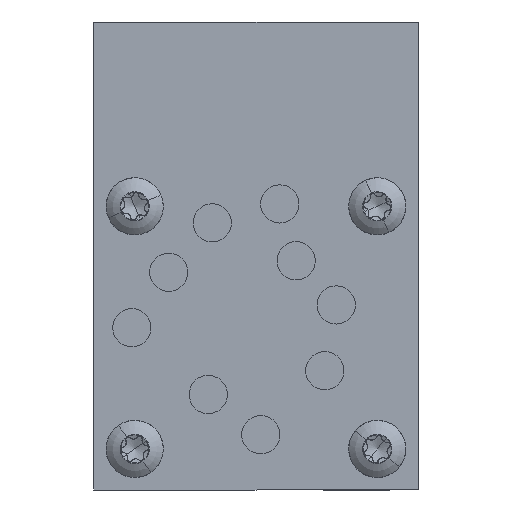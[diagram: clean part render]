
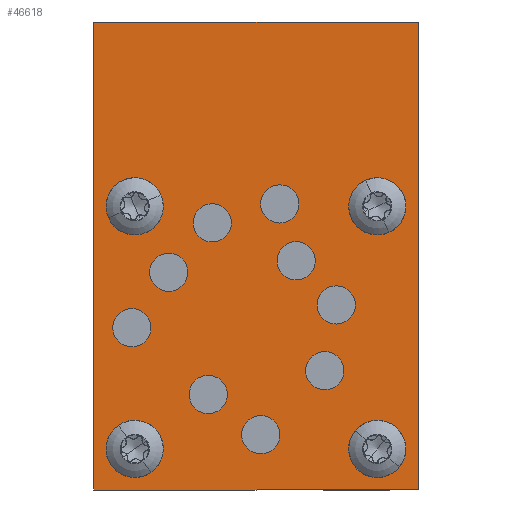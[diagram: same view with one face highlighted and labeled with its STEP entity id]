
A CAD part, front view. The second image highlights one B-rep face of the part: STEP entity #46618.
In plain terms, the highlighted planar face has unit normal (0, -1, 0).
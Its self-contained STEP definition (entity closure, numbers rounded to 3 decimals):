
#57 = CARTESIAN_POINT ( 'NONE',  ( -7.25, -4.809, 6.35 ) ) ;
#330 = CARTESIAN_POINT ( 'NONE',  ( 6.35, -4.809, -6.35 ) ) ;
#688 = VERTEX_POINT ( 'NONE', #57 ) ;
#772 = PLANE ( 'NONE',  #44160 ) ;
#850 = ORIENTED_EDGE ( 'NONE', *, *, #74479, .T. ) ;
#1017 = CARTESIAN_POINT ( 'NONE',  ( -8.5, -4.809, -8.5 ) ) ;
#2002 = VERTEX_POINT ( 'NONE', #44942 ) ;
#2562 = CARTESIAN_POINT ( 'NONE',  ( -7.25, -4.809, -6.35 ) ) ;
#2888 = AXIS2_PLACEMENT_3D ( 'NONE', #68080, #74095, #51162 ) ;
#3318 = VECTOR ( 'NONE', #51398, 1000. ) ;
#3417 = ORIENTED_EDGE ( 'NONE', *, *, #67485, .T. ) ;
#5815 = EDGE_CURVE ( 'NONE', #45388, #74405, #64828, .T. ) ;
#6042 = FACE_BOUND ( 'NONE', #34534, .T. ) ;
#6562 = DIRECTION ( 'NONE',  ( -1., 0., 0. ) ) ;
#8309 = AXIS2_PLACEMENT_3D ( 'NONE', #48574, #14325, #48217 ) ;
#9166 = DIRECTION ( 'NONE',  ( 0., 1., 0. ) ) ;
#9452 = ORIENTED_EDGE ( 'NONE', *, *, #33789, .T. ) ;
#9800 = VERTEX_POINT ( 'NONE', #26542 ) ;
#10145 = VECTOR ( 'NONE', #16329, 1000. ) ;
#11543 = LINE ( 'NONE', #34134, #29314 ) ;
#12077 = FACE_OUTER_BOUND ( 'NONE', #22531, .T. ) ;
#12630 = AXIS2_PLACEMENT_3D ( 'NONE', #71267, #9166, #68123 ) ;
#13080 = AXIS2_PLACEMENT_3D ( 'NONE', #330, #42085, #57544 ) ;
#13491 = DIRECTION ( 'NONE',  ( 0., 1., 0. ) ) ;
#14325 = DIRECTION ( 'NONE',  ( 0., 1., 0. ) ) ;
#14442 = EDGE_CURVE ( 'NONE', #15120, #2002, #70233, .T. ) ;
#14686 = DIRECTION ( 'NONE',  ( 1., 0., 0. ) ) ;
#15120 = VERTEX_POINT ( 'NONE', #2562 ) ;
#15675 = ORIENTED_EDGE ( 'NONE', *, *, #35165, .T. ) ;
#16329 = DIRECTION ( 'NONE',  ( 0., 0., -1. ) ) ;
#16632 = CARTESIAN_POINT ( 'NONE',  ( 5.45, -4.809, 6.35 ) ) ;
#16716 = EDGE_LOOP ( 'NONE', ( #64727, #27274 ) ) ;
#17494 = CARTESIAN_POINT ( 'NONE',  ( 8.5, -4.809, 16. ) ) ;
#19382 = CARTESIAN_POINT ( 'NONE',  ( -5.45, -4.809, 6.35 ) ) ;
#20568 = EDGE_LOOP ( 'NONE', ( #68234, #850 ) ) ;
#20969 = DIRECTION ( 'NONE',  ( 1., 0., 0. ) ) ;
#21341 = CARTESIAN_POINT ( 'NONE',  ( 6.35, -4.809, 6.35 ) ) ;
#21583 = VERTEX_POINT ( 'NONE', #19382 ) ;
#21719 = DIRECTION ( 'NONE',  ( 1., 0., 0. ) ) ;
#21967 = LINE ( 'NONE', #67856, #10145 ) ;
#22094 = DIRECTION ( 'NONE',  ( 1., 0., 0. ) ) ;
#22218 = DIRECTION ( 'NONE',  ( 0., 1., 0. ) ) ;
#22531 = EDGE_LOOP ( 'NONE', ( #3417, #37058, #60990, #9452 ) ) ;
#23000 = FACE_BOUND ( 'NONE', #24952, .T. ) ;
#24952 = EDGE_LOOP ( 'NONE', ( #54748, #56403 ) ) ;
#26542 = CARTESIAN_POINT ( 'NONE',  ( 5.45, -4.809, -6.35 ) ) ;
#27032 = CIRCLE ( 'NONE', #12630, 0.9 ) ;
#27274 = ORIENTED_EDGE ( 'NONE', *, *, #5815, .T. ) ;
#29314 = VECTOR ( 'NONE', #22094, 1000. ) ;
#30579 = VECTOR ( 'NONE', #6562, 1000. ) ;
#33166 = ORIENTED_EDGE ( 'NONE', *, *, #14442, .T. ) ;
#33383 = DIRECTION ( 'NONE',  ( 0., 1., 0. ) ) ;
#33789 = EDGE_CURVE ( 'NONE', #51782, #72122, #44968, .T. ) ;
#34134 = CARTESIAN_POINT ( 'NONE',  ( -8.5, -4.809, -8.5 ) ) ;
#34534 = EDGE_LOOP ( 'NONE', ( #15675, #33166 ) ) ;
#35165 = EDGE_CURVE ( 'NONE', #2002, #15120, #62436, .T. ) ;
#35916 = AXIS2_PLACEMENT_3D ( 'NONE', #21341, #33383, #21719 ) ;
#37058 = ORIENTED_EDGE ( 'NONE', *, *, #72609, .T. ) ;
#37633 = VERTEX_POINT ( 'NONE', #65027 ) ;
#37692 = EDGE_CURVE ( 'NONE', #39426, #9800, #68319, .T. ) ;
#37828 = EDGE_CURVE ( 'NONE', #21583, #688, #51584, .T. ) ;
#38743 = DIRECTION ( 'NONE',  ( 0., 1., 0. ) ) ;
#38937 = CIRCLE ( 'NONE', #2888, 0.9 ) ;
#39141 = CARTESIAN_POINT ( 'NONE',  ( -6.35, -4.809, -6.35 ) ) ;
#39426 = VERTEX_POINT ( 'NONE', #49668 ) ;
#39762 = CARTESIAN_POINT ( 'NONE',  ( 8.5, -4.809, 16. ) ) ;
#41027 = CARTESIAN_POINT ( 'NONE',  ( -8.5, -4.809, 16. ) ) ;
#42085 = DIRECTION ( 'NONE',  ( 0., 1., 0. ) ) ;
#44160 = AXIS2_PLACEMENT_3D ( 'NONE', #41027, #50837, #69623 ) ;
#44942 = CARTESIAN_POINT ( 'NONE',  ( -5.45, -4.809, -6.35 ) ) ;
#44968 = LINE ( 'NONE', #17494, #30579 ) ;
#45168 = DIRECTION ( 'NONE',  ( 1., 0., 0. ) ) ;
#45388 = VERTEX_POINT ( 'NONE', #16632 ) ;
#46618 = ADVANCED_FACE ( 'NONE', ( #46689, #57240, #6042, #23000, #12077 ), #772, .F. ) ;
#46689 = FACE_BOUND ( 'NONE', #20568, .T. ) ;
#46761 = AXIS2_PLACEMENT_3D ( 'NONE', #72136, #13491, #20969 ) ;
#48217 = DIRECTION ( 'NONE',  ( 1., 0., 0. ) ) ;
#48338 = EDGE_CURVE ( 'NONE', #37633, #51782, #61947, .T. ) ;
#48574 = CARTESIAN_POINT ( 'NONE',  ( 6.35, -4.809, 6.35 ) ) ;
#49668 = CARTESIAN_POINT ( 'NONE',  ( 7.25, -4.809, -6.35 ) ) ;
#50837 = DIRECTION ( 'NONE',  ( 0., 1., 0. ) ) ;
#51162 = DIRECTION ( 'NONE',  ( 1., 0., 0. ) ) ;
#51398 = DIRECTION ( 'NONE',  ( 0., 0., 1. ) ) ;
#51456 = EDGE_CURVE ( 'NONE', #74405, #45388, #57564, .T. ) ;
#51584 = CIRCLE ( 'NONE', #46761, 0.9 ) ;
#51782 = VERTEX_POINT ( 'NONE', #39762 ) ;
#52432 = VERTEX_POINT ( 'NONE', #1017 ) ;
#53773 = CARTESIAN_POINT ( 'NONE',  ( -8.5, -4.809, 16. ) ) ;
#54748 = ORIENTED_EDGE ( 'NONE', *, *, #37828, .T. ) ;
#55331 = CARTESIAN_POINT ( 'NONE',  ( -6.35, -4.809, -6.35 ) ) ;
#56403 = ORIENTED_EDGE ( 'NONE', *, *, #58176, .T. ) ;
#57240 = FACE_BOUND ( 'NONE', #16716, .T. ) ;
#57544 = DIRECTION ( 'NONE',  ( 1., 0., 0. ) ) ;
#57564 = CIRCLE ( 'NONE', #35916, 0.9 ) ;
#58176 = EDGE_CURVE ( 'NONE', #688, #21583, #27032, .T. ) ;
#59438 = AXIS2_PLACEMENT_3D ( 'NONE', #55331, #38743, #14686 ) ;
#60990 = ORIENTED_EDGE ( 'NONE', *, *, #48338, .T. ) ;
#61947 = LINE ( 'NONE', #67582, #3318 ) ;
#62436 = CIRCLE ( 'NONE', #66013, 0.9 ) ;
#63564 = CARTESIAN_POINT ( 'NONE',  ( 7.25, -4.809, 6.35 ) ) ;
#64727 = ORIENTED_EDGE ( 'NONE', *, *, #51456, .T. ) ;
#64828 = CIRCLE ( 'NONE', #8309, 0.9 ) ;
#65027 = CARTESIAN_POINT ( 'NONE',  ( 8.5, -4.809, -8.5 ) ) ;
#66013 = AXIS2_PLACEMENT_3D ( 'NONE', #39141, #22218, #45168 ) ;
#67485 = EDGE_CURVE ( 'NONE', #72122, #52432, #21967, .T. ) ;
#67582 = CARTESIAN_POINT ( 'NONE',  ( 8.5, -4.809, -8.5 ) ) ;
#67856 = CARTESIAN_POINT ( 'NONE',  ( -8.5, -4.809, 16. ) ) ;
#68080 = CARTESIAN_POINT ( 'NONE',  ( 6.35, -4.809, -6.35 ) ) ;
#68123 = DIRECTION ( 'NONE',  ( 1., 0., 0. ) ) ;
#68234 = ORIENTED_EDGE ( 'NONE', *, *, #37692, .T. ) ;
#68319 = CIRCLE ( 'NONE', #13080, 0.9 ) ;
#69623 = DIRECTION ( 'NONE',  ( 1., 0., 0. ) ) ;
#70233 = CIRCLE ( 'NONE', #59438, 0.9 ) ;
#71267 = CARTESIAN_POINT ( 'NONE',  ( -6.35, -4.809, 6.35 ) ) ;
#72122 = VERTEX_POINT ( 'NONE', #53773 ) ;
#72136 = CARTESIAN_POINT ( 'NONE',  ( -6.35, -4.809, 6.35 ) ) ;
#72609 = EDGE_CURVE ( 'NONE', #52432, #37633, #11543, .T. ) ;
#74095 = DIRECTION ( 'NONE',  ( 0., 1., 0. ) ) ;
#74405 = VERTEX_POINT ( 'NONE', #63564 ) ;
#74479 = EDGE_CURVE ( 'NONE', #9800, #39426, #38937, .T. ) ;
